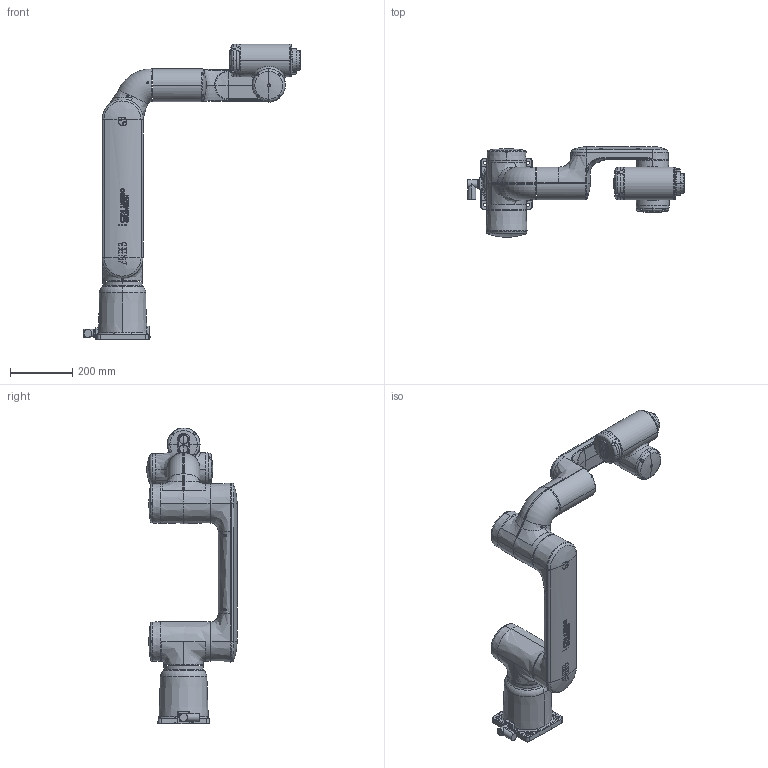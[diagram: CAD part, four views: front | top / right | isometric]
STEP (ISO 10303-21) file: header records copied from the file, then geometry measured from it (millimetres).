
FILE_DESCRIPTION (( 'STEP AP214' ), '1' );
FILE_NAME ('CRB15000_5kg-950_OmniCore_rev00.step', '2021-01-29T06:10:10', ( '' ), ( '' ), 'SwSTEP 2.0', 'SolidWorks 2018', '' );
FILE_SCHEMA (( 'AUTOMOTIVE_DESIGN' ));
Length unit declared in the file: millimetre
Products named in the file (1): CRB15000_5kg-950_OmniCore_rev00
Bounding box: 695.5 x 290.2 x 951.75 mm (x, y, z)
Volume: 19877190.9 mm3; surface area: 919770.3 mm2
Topology: 7 solids, 11 shells, 1672 faces, 4252 edges, 2757 vertices
Faces by surface type: plane 657, bspline 403, cylinder 399, cone 165, torus 40, sphere 8
Entity records: 126483 total; most frequent: CARTESIAN_POINT 71073, ORIENTED_EDGE 8468, DIRECTION 6413, EDGE_CURVE 4234, VERTEX_POINT 2757, AXIS2_PLACEMENT_3D 2392, EDGE_LOOP 1857, UNCERTAINTY_MEASURE_WITH_UNIT 1681
